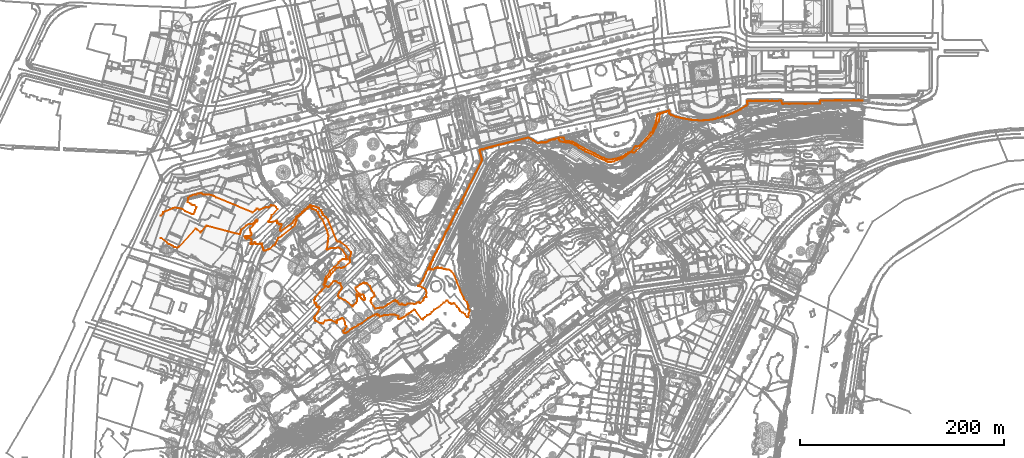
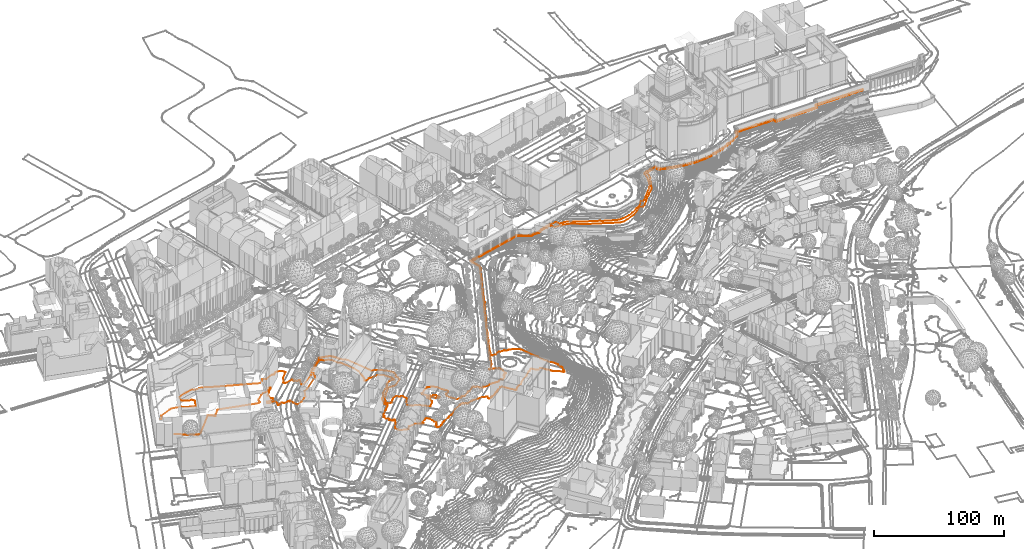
# Not in any storey, part 161 of 477: 2 geographic elements.
"""IFC4 model written with IfcOpenShell, lengths in metres."""

from ifc_helpers import new_model, entity, si_unit, frame, origin_with_axes, place, context, subcontext, project, spatial, element, save


model = new_model("IFC4")

# Units and contexts
model_context = context("Model", 3, precision=1e-05, world=origin_with_axes())
body_context = subcontext(model_context, "Body", "Model", "MODEL_VIEW")
ifc_project = project(units=[si_unit("AREAUNIT", "SQUARE_METRE"), si_unit("LENGTHUNIT", "METRE")], contexts=[model_context])

# Sites
site_1_placement = place(None, origin_with_axes())
site_1 = spatial("IfcSite", under=ifc_project, at=site_1_placement, Name="Topoexport Site")
site_2_placement = place(site_1_placement, origin_with_axes())
site_2 = spatial("IfcSite", under=site_1, at=site_2_placement, Name="TPX_CONTOUR_LINES")

# Geographic elements
geographic_element_1_placement = place(site_2_placement, frame((-0.8222679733, 247.6577477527, 535.0), z_axis=(0.0, 0.0, 1.0), x_axis=(1.0, 0.0, 0.0)))
element("IfcGeographicElement", 1, at=geographic_element_1_placement, inside=site_2, Name="Contour Line 535.0 m", PredefinedType="NOTDEFINED", context=body_context, shape_type="GeometricCurveSet", body=[
    entity("IfcGeometricCurveSet", [entity("IfcIndexedPolyCurve", entity("IfcCartesianPointList3D", [[689.0, 113.0112861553, 0.0], [684.5, 113.2232054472, 0.0], [682.5, 113.0069497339, 0.0], [679.5, 113.2831371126, 0.0], [676.5, 112.9909957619, 0.0], [662.5, 113.3224173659, 0.0], [657.5, 113.0410392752, 0.0], [647.5, 113.1673440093, 0.0], [646.4888474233, 112.5129682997, 0.0], [646.4300025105, 110.5129682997, 0.0], [645.5, 110.090278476, 0.0], [624.5, 110.0064386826, 0.0], [621.5, 110.2202464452, 0.0], [616.5, 109.9106621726, 0.0], [612.5, 110.13540971, 0.0], [610.5, 109.938324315, 0.0], [609.530613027, 110.5129682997, 0.0], [609.074192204, 112.5129682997, 0.0], [608.5, 112.9461238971, 0.0], [607.5, 113.0327052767, 0.0], [604.5, 112.6261456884, 0.0], [601.5, 112.5724643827, 0.0], [599.5, 112.8542835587, 0.0], [597.5, 112.5474271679, 0.0], [594.5, 112.9226776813, 0.0], [580.5, 112.6901587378, 0.0], [576.5, 112.8878785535, 0.0], [575.3509939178, 112.5129682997, 0.0], [575.156582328, 111.5129682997, 0.0], [575.5146015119, 109.5129682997, 0.0], [574.5, 108.2709891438, 0.0], [566.5, 103.3599050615, 0.0], [564.5, 102.2541050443, 0.0], [563.5, 102.1129409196, 0.0], [562.5, 101.2432690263, 0.0], [561.5, 101.0953213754, 0.0], [560.5, 100.4428786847, 0.0], [556.5, 99.0506712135, 0.0], [555.5, 98.418869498, 0.0], [553.5, 98.0709950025, 0.0], [552.5, 97.4730253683, 0.0], [550.5, 97.1183948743, 0.0], [548.5, 96.2588495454, 0.0], [546.5, 96.0701234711, 0.0], [543.5, 94.9527829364, 0.0], [537.5, 93.9780991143, 0.0], [530.291754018, 93.5129682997, 0.0], [527.5, 93.4214150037, 0.0], [526.5, 93.7781198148, 0.0], [519.5, 94.1629951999, 0.0], [508.5, 96.3017203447, 0.0], [507.5, 96.8825108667, 0.0], [505.5, 97.0364071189, 0.0], [502.5, 98.1863130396, 0.0], [501.5, 98.8801299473, 0.0], [500.5, 98.9951060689, 0.0], [499.7765457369, 99.5129682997, 0.0], [499.1739503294, 100.5129682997, 0.0], [498.9072390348, 102.5129682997, 0.0], [498.5, 102.9030619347, 0.0], [496.5, 102.7229866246, 0.0], [495.5, 102.1103224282, 0.0], [493.5, 101.7634862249, 0.0], [492.5, 100.9858348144, 0.0], [490.0512799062, 100.5129682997, 0.0], [489.5, 100.0703002, 0.0], [488.5, 100.0329479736, 0.0], [487.2213236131, 99.5129682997, 0.0], [486.7536295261, 98.5129682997, 0.0], [486.8007915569, 97.5129682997, 0.0], [485.3094752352, 90.5129682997, 0.0], [484.617260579, 88.5129682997, 0.0], [483.0735456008, 85.5129682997, 0.0], [482.5, 82.4621056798, 0.0], [480.7066145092, 81.5129682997, 0.0], [479.5, 79.5277939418, 0.0], [468.888888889, 68.5129682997, 0.0], [467.5, 67.7199390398, 0.0], [466.5, 68.3250984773, 0.0], [465.5, 68.0816714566, 0.0], [464.5, 67.0726644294, 0.0], [463.8097659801, 65.5129682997, 0.0], [460.5, 62.4744696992, 0.0], [458.5, 61.7611054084, 0.0], [456.5, 60.3382523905, 0.0], [452.5, 58.2216925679, 0.0], [448.5, 56.5607224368, 0.0], [442.5, 55.2909848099, 0.0], [440.5, 55.0570894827, 0.0], [438.5, 55.334133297, 0.0], [436.5, 55.8115464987, 0.0], [434.5, 56.8721564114, 0.0], [433.5, 57.0745964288, 0.0], [426.5, 60.4080882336, 0.0], [425.5, 61.2716425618, 0.0], [416.5, 65.4773194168, 0.0], [409.5, 69.3306665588, 0.0], [407.5, 70.7259605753, 0.0], [403.5, 72.7002039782, 0.0], [400.5, 73.3825605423, 0.0], [396.7853067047, 73.5129682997, 0.0], [395.6617080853, 75.5129682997, 0.0], [395.4479940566, 76.5129682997, 0.0], [394.5, 76.7260753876, 0.0], [390.5, 76.6855894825, 0.0], [389.5, 75.9234505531, 0.0], [387.5, 75.7761188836, 0.0], [385.5, 74.9852552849, 0.0], [383.5, 74.8044291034, 0.0], [381.5, 73.9819271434, 0.0], [380.5, 73.9006376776, 0.0], [379.5, 72.9382895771, 0.0], [378.5, 72.5032983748, 0.0], [375.5, 72.0016661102, 0.0], [373.5, 72.1146716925, 0.0], [370.5, 71.346337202, 0.0], [369.5, 71.3913681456, 0.0], [365.5, 74.0510210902, 0.0], [360.5, 76.7433366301, 0.0], [319.5, 66.5930714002, 0.0], [316.5, 65.3852895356, 0.0], [315.1690001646, 65.5129682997, 0.0], [312.6763834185, 64.5129682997, 0.0], [315.0169946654, 55.5129682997, 0.0], [314.6922356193, 53.5129682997, 0.0], [297.0241696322, 18.5129682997, 0.0], [294.6409162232, 13.5129682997, 0.0], [294.4283113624, 12.5129682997, 0.0], [290.5, 5.4709407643, 0.0], [289.7676762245, 3.5129682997, 0.0], [287.5, -0.5844544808, 0.0], [283.8492509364, -8.4870317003, 0.0], [279.462900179, -16.4870317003, 0.0], [276.9086111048, -22.4870317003, 0.0], [271.173315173, -33.4870317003, 0.0], [271.1798654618, -34.4870317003, 0.0], [269.1022958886, -37.4870317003, 0.0], [267.9898264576, -40.4870317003, 0.0], [267.2663899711, -41.4870317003, 0.0], [267.0973965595, -42.4870317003, 0.0], [264.5, -46.9361947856, 0.0], [262.4566205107, -51.4870317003, 0.0], [262.2661570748, -52.4870317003, 0.0], [260.5, -55.2028052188, 0.0], [260.2738789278, -56.4870317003, 0.0], [259.4943644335, -57.4870317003, 0.0], [258.9957020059, -59.4870317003, 0.0], [258.1840320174, -61.4870317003, 0.0], [257.5, -62.4147225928, 0.0], [257.3526284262, -63.4870317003, 0.0], [256.5, -64.1619576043, 0.0], [255.2109717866, -66.4870317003, 0.0], [253.5, -68.4155876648, 0.0], [252.4093686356, -68.4870317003, 0.0], [252.5, -68.8494095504, 0.0], [253.5, -68.7892295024, 0.0], [255.277777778, -69.4870317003, 0.0], [259.5, -71.6545896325, 0.0], [260.5934809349, -73.4870317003, 0.0], [260.7725321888, -75.4870317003, 0.0], [260.5291438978, -78.4870317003, 0.0], [260.7724458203, -79.4870317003, 0.0], [260.5, -79.8506680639, 0.0], [259.5, -79.8443286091, 0.0], [258.5, -80.747690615, 0.0], [257.7681055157, -81.4870317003, 0.0], [257.9235668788, -82.4870317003, 0.0], [257.5, -83.0466389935, 0.0], [254.5, -85.5876740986, 0.0], [253.5, -84.7174128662, 0.0], [251.5, -85.3118492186, 0.0], [250.5, -86.22916368, 0.0], [248.5, -86.4479692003, 0.0], [247.5, -86.1715310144, 0.0], [245.5, -86.2876210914, 0.0], [244.5, -85.8812015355, 0.0], [243.5, -86.2376901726, 0.0], [242.5, -86.1065169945, 0.0], [240.5, -87.3133272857, 0.0], [239.5, -87.353978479, 0.0], [237.5, -86.8645151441, 0.0], [236.5, -86.2800908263, 0.0], [235.5, -87.2725544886, 0.0], [234.5, -87.0003241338, 0.0], [233.3216355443, -85.4870317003, 0.0], [232.5, -83.8328911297, 0.0], [231.5, -83.8543044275, 0.0], [230.9721254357, -83.4870317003, 0.0], [230.5, -82.6128381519, 0.0], [228.5, -83.3790997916, 0.0], [224.5, -86.2395309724, 0.0], [223.1563137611, -86.4870317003, 0.0], [222.1232692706, -87.4870317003, 0.0], [218.5, -89.7486545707, 0.0], [217.5, -90.0153369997, 0.0], [216.5, -89.7598822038, 0.0], [215.5, -89.9111168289, 0.0], [214.5, -90.470775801, 0.0], [210.5, -90.8093346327, 0.0], [209.2204559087, -88.4870317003, 0.0], [206.861111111, -85.4870317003, 0.0], [206.2339003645, -83.4870317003, 0.0], [206.2977443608, -82.4870317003, 0.0], [207.1254666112, -80.4870317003, 0.0], [209.5, -79.1425340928, 0.0], [210.0429326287, -78.4870317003, 0.0], [209.702937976, -76.4870317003, 0.0], [209.1589506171, -75.4870317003, 0.0], [207.5, -73.6754062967, 0.0], [205.5, -69.126598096, 0.0], [202.447449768, -66.4870317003, 0.0], [201.5, -66.1507727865, 0.0], [200.5, -66.2447116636, 0.0], [199.5, -65.5348363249, 0.0], [198.5, -65.7710237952, 0.0], [196.5, -67.1314679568, 0.0], [195.5, -67.3774929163, 0.0], [193.5, -69.2567559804, 0.0], [191.3406144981, -70.4870317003, 0.0], [191.1686725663, -71.4870317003, 0.0], [192.8196506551, -74.4870317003, 0.0], [195.0317394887, -76.4870317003, 0.0], [194.8571428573, -77.4870317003, 0.0], [195.5, -77.6973530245, 0.0], [197.5, -77.1213959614, 0.0], [198.5, -77.3715324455, 0.0], [199.5, -78.2862018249, 0.0], [199.5965391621, -79.4870317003, 0.0], [200.6067907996, -80.4870317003, 0.0], [200.5, -81.8970423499, 0.0], [199.5, -82.4383868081, 0.0], [198.5, -82.3318106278, 0.0], [197.5, -81.774515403, 0.0], [196.9292452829, -80.4870317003, 0.0], [195.5, -78.8194087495, 0.0], [194.4391361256, -78.4870317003, 0.0], [194.2303370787, -77.4870317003, 0.0], [192.5, -76.700494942, 0.0], [192.0708071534, -77.4870317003, 0.0], [192.0960067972, -78.4870317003, 0.0], [192.8836352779, -80.4870317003, 0.0], [192.7656915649, -82.4870317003, 0.0], [193.0153333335, -83.4870317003, 0.0], [191.8103049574, -85.4870317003, 0.0], [189.3990037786, -87.4870317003, 0.0], [188.5, -88.9304608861, 0.0], [180.5, -82.4255770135, 0.0], [175.5, -80.4498695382, 0.0], [173.966292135, -78.4870317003, 0.0], [174.9550054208, -75.4870317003, 0.0], [177.5364797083, -71.4870317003, 0.0], [177.8597733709, -70.4870317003, 0.0], [176.4318936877, -66.4870317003, 0.0], [175.5, -65.7329994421, 0.0], [174.5, -66.1006680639, 0.0], [172.5, -64.2441646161, 0.0], [171.5, -63.8239966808, 0.0], [170.5, -63.997916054, 0.0], [169.5, -64.2540940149, 0.0], [167.8858289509, -66.4870317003, 0.0], [166.6465942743, -67.4870317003, 0.0], [165.1363636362, -69.4870317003, 0.0], [164.5, -69.7521056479, 0.0], [162.5, -69.1022814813, 0.0], [161.5, -69.228208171, 0.0], [161.0890939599, -67.4870317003, 0.0], [161.3615008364, -66.4870317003, 0.0], [162.1577249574, -65.4870317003, 0.0], [163.3270788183, -61.4870317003, 0.0], [165.6892282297, -59.4870317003, 0.0], [167.5, -56.8292034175, 0.0], [169.5, -54.8408882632, 0.0], [172.5, -51.1586479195, 0.0], [174.5, -50.8953517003, 0.0], [177.5, -51.1318261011, 0.0], [179.9154154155, -50.4870317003, 0.0], [185.9820185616, -45.4870317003, 0.0], [185.9554399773, -43.4870317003, 0.0], [185.2370386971, -41.4870317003, 0.0], [185.4009862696, -40.4870317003, 0.0], [186.4475394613, -39.4870317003, 0.0], [186.9264159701, -36.4870317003, 0.0], [186.7392324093, -35.4870317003, 0.0], [182.5, -30.0406379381, 0.0], [177.0377984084, -26.4870317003, 0.0], [176.0640608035, -25.4870317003, 0.0], [175.5, -25.1854351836, 0.0], [173.5, -25.3294814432, 0.0], [172.7647898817, -24.4870317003, 0.0], [164.2228525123, -3.4870317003, 0.0], [162.549434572, -1.4870317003, 0.0], [159.4530031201, 0.5129682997, 0.0], [159.4146572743, 1.5129682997, 0.0], [158.5382302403, 2.5129682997, 0.0], [158.5073452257, 3.5129682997, 0.0], [157.3106694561, 5.5129682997, 0.0], [155.3957688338, 7.5129682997, 0.0], [154.5, 7.9968033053, 0.0], [149.5, 9.6261115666, 0.0], [148.5, 8.9720280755, 0.0], [147.5, 9.9483295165, 0.0], [146.5, 10.4463410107, 0.0], [144.6164472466, 8.5129682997, 0.0], [144.3345552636, 7.5129682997, 0.0], [143.5, 7.1650644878, 0.0], [142.5, 6.2027820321, 0.0], [141.5, 5.8957982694, 0.0], [140.5, 4.5261856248, 0.0], [139.0738347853, 3.5129682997, 0.0], [137.1136449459, 1.5129682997, 0.0], [135.5, 0.1384839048, 0.0], [134.5, -0.1814486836, 0.0], [133.1907121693, -1.4870317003, 0.0], [130.9110665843, -4.4870317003, 0.0], [129.5, -6.9800649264, 0.0], [118.5, -14.7582992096, 0.0], [117.5, -14.6476534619, 0.0], [117.2329020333, -13.4870317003, 0.0], [118.9345922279, -8.4870317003, 0.0], [118.5, -8.085616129, 0.0], [117.5, -7.9461109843, 0.0], [116.5, -8.3814654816, 0.0], [115.6895652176, -7.4870317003, 0.0], [114.5, -6.9479535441, 0.0], [114.283018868, -6.4870317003, 0.0], [114.6253993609, -5.4870317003, 0.0], [114.6015873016, -4.4870317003, 0.0], [108.5, -6.3135623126, 0.0], [106.5, -6.0071177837, 0.0], [105.7749999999, -5.4870317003, 0.0], [108.0059347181, -2.4870317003, 0.0], [109.1173664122, 0.5129682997, 0.0], [114.716910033, 6.5129682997, 0.0], [113.3504135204, 8.5129682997, 0.0], [111.5, 10.0488829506, 0.0], [109.5, 9.9900272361, 0.0], [108.5, 10.4705252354, 0.0], [106.5, 8.5933963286, 0.0], [105.5, 8.2002851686, 0.0], [103.5, 8.6793812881, 0.0], [97.5, 5.9740854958, 0.0], [96.5, 5.8766688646, 0.0], [95.5, 6.9868383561, 0.0], [94.5, 7.0183243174, 0.0], [93.5, 5.8307488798, 0.0], [90.5, 3.3145008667, 0.0], [54.5, 18.0671036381, 0.0], [52.4287257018, 19.5129682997, 0.0], [47.5, 20.9436893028, 0.0], [46.5, 21.0245594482, 0.0], [44.5, 20.5720546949, 0.0], [42.5, 20.8840291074, 0.0], [41.5, 21.1723642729, 0.0], [40.5, 22.0604682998, 0.0], [39.5, 22.181493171, 0.0], [36.5, 21.7025576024, 0.0], [35.5, 20.9886129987, 0.0], [34.5, 20.8063424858, 0.0], [33.5, 20.9731302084, 0.0], [29.5, 19.4497343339, 0.0], [27.5, 18.0330284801, 0.0], [27.2221329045, 17.5129682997, 0.0], [26.6352810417, 13.5129682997, 0.0], [29.5, 11.8480222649, 0.0], [30.5, 10.8893383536, 0.0], [31.5, 10.5011654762, 0.0], [33.573924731, 10.5129682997, 0.0], [35.2894144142, 8.5129682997, 0.0], [35.0867625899, 7.5129682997, 0.0], [33.9570142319, 5.5129682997, 0.0], [33.5, 3.4001107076, 0.0], [32.5, 1.5352897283, 0.0], [30.5, 1.7923606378, 0.0], [24.3558740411, 4.5129682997, 0.0], [21.5, 6.7411060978, 0.0], [14.5, 7.9957934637, 0.0], [12.546875, 7.5129682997, 0.0], [2.7746365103, 3.5129682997, 0.0], [2.677121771, 2.5129682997, 0.0], [1.9111310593, 1.5129682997, 0.0], [0.5, 0.0, 0.0], [0.0, 0.0, 0.0]]))]),
])
geographic_element_2_placement = place(site_2_placement, frame((-0.8222679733, 225.9523151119, 534.0), z_axis=(0.0, 0.0, 1.0), x_axis=(1.0, 0.0, 0.0)))
element("IfcGeographicElement", 2, at=geographic_element_2_placement, inside=site_2, Name="Contour Line 534.0 m", PredefinedType="NOTDEFINED", context=body_context, shape_type="GeometricCurveSet", body=[
    entity("IfcGeometricCurveSet", [entity("IfcIndexedPolyCurve", entity("IfcCartesianPointList3D", [[689.0, 134.488948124, 0.0], [679.5, 134.7400675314, 0.0], [676.5, 134.4754351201, 0.0], [668.5, 134.7838034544, 0.0], [666.5, 134.5900608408, 0.0], [647.5, 134.6748974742, 0.0], [646.7922440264, 134.2184009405, 0.0], [646.5, 131.9275463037, 0.0], [645.5, 131.6087517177, 0.0], [631.5, 131.4418099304, 0.0], [621.5, 131.7601757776, 0.0], [616.5, 131.3691432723, 0.0], [612.5, 131.6509445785, 0.0], [610.5, 131.4576977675, 0.0], [609.5, 131.7335027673, 0.0], [608.811594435, 134.2184009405, 0.0], [607.5, 134.5700658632, 0.0], [604.5, 134.0523302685, 0.0], [601.5, 134.0001410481, 0.0], [599.5, 134.3380621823, 0.0], [597.5, 133.9541433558, 0.0], [596.5, 134.3108091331, 0.0], [594.5, 134.4191813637, 0.0], [580.5, 134.1193803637, 0.0], [576.5, 134.3794348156, 0.0], [575.5, 134.0785059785, 0.0], [575.3027531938, 133.2184009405, 0.0], [575.736935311, 131.2184009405, 0.0], [574.5, 129.8369169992, 0.0], [573.5, 129.4247411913, 0.0], [568.5, 126.0720220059, 0.0], [564.5, 123.8780588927, 0.0], [563.5, 123.7286547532, 0.0], [562.5, 122.8762868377, 0.0], [561.5, 122.7071065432, 0.0], [560.5, 122.0613811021, 0.0], [556.5, 120.6528572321, 0.0], [555.5, 120.0477864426, 0.0], [553.5, 119.6782898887, 0.0], [552.5, 119.0958598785, 0.0], [550.5, 118.7352021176, 0.0], [548.5, 117.8928918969, 0.0], [546.5, 117.6774800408, 0.0], [543.5, 116.5320945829, 0.0], [537.5, 115.5630558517, 0.0], [533.5, 115.2968949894, 0.0], [527.5, 115.0105137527, 0.0], [526.5, 115.3204496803, 0.0], [519.5, 115.7897252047, 0.0], [512.5, 117.0151773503, 0.0], [508.5, 117.9175107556, 0.0], [506.5, 118.6942990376, 0.0], [505.5, 118.6035034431, 0.0], [502.5, 119.780061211, 0.0], [501.5, 120.4493402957, 0.0], [500.5, 120.5893899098, 0.0], [499.6212707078, 121.2184009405, 0.0], [498.89294045, 122.2184009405, 0.0], [498.7402376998, 124.2184009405, 0.0], [498.5, 124.4485242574, 0.0], [496.5, 124.2578307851, 0.0], [495.5, 123.5778299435, 0.0], [493.5, 123.3072867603, 0.0], [492.5, 122.4664040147, 0.0], [490.8420209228, 122.2184009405, 0.0], [490.5, 121.7185776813, 0.0], [489.4606594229, 121.2184009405, 0.0], [489.3637724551, 118.2184009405, 0.0], [488.5679254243, 115.2184009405, 0.0], [488.6046724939, 114.2184009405, 0.0], [487.5, 113.2965827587, 0.0], [485.9438260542, 109.2184009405, 0.0], [483.8002648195, 105.2184009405, 0.0], [482.6694204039, 102.2184009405, 0.0], [477.5, 97.1337692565, 0.0], [475.991413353, 95.2184009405, 0.0], [473.5, 93.2622468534, 0.0], [470.5, 89.6392823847, 0.0], [466.5, 85.4939731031, 0.0], [464.5, 83.8536412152, 0.0], [463.5, 83.717396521, 0.0], [462.5, 84.4871039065, 0.0], [461.5, 84.3215413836, 0.0], [452.5, 77.9238681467, 0.0], [444.5, 75.0919943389, 0.0], [441.5, 74.347378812, 0.0], [438.5, 74.4900465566, 0.0], [430.5, 78.031721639, 0.0], [423.5, 81.6567760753, 0.0], [416.5, 84.8045180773, 0.0], [414.4158361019, 86.2184009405, 0.0], [410.385262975, 88.2184009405, 0.0], [406.5, 91.0880211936, 0.0], [403.5, 92.4939134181, 0.0], [399.5, 93.6182380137, 0.0], [397.5, 93.5580377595, 0.0], [393.5, 94.3045987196, 0.0], [392.2856650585, 94.2184009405, 0.0], [391.2514224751, 95.2184009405, 0.0], [390.4160419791, 97.2184009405, 0.0], [387.5, 97.3064882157, 0.0], [386.5, 96.5673826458, 0.0], [383.5, 96.3412187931, 0.0], [381.5, 95.4396353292, 0.0], [380.5, 95.4551477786, 0.0], [379.5, 94.3008028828, 0.0], [377.5, 93.4989804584, 0.0], [373.5, 93.6669298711, 0.0], [370.5, 92.86773992, 0.0], [369.5, 92.899621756, 0.0], [365.5, 95.5893519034, 0.0], [360.5, 98.2690038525, 0.0], [348.5, 95.4561013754, 0.0], [335.5, 91.9477227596, 0.0], [332.5, 91.4843427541, 0.0], [323.5, 88.8413511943, 0.0], [320.0506398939, 88.2184009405, 0.0], [316.5, 86.7694861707, 0.0], [313.3153102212, 86.2184009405, 0.0], [313.5, 84.5015655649, 0.0], [315.3093207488, 77.2184009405, 0.0], [315.0023565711, 75.2184009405, 0.0], [308.5, 62.607726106, 0.0], [305.0229273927, 55.2184009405, 0.0], [303.2826672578, 52.2184009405, 0.0], [298.0355285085, 41.2184009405, 0.0], [297.2941050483, 40.2184009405, 0.0], [296.1077186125, 37.2184009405, 0.0], [295.436174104, 36.2184009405, 0.0], [295.3059212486, 34.2184009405, 0.0], [294.5, 33.4720968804, 0.0], [292.5, 30.478246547, 0.0], [292.1080112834, 29.2184009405, 0.0], [290.5, 26.6110374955, 0.0], [290.1201036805, 25.2184009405, 0.0], [289.3200018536, 24.2184009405, 0.0], [286.1477287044, 17.2184009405, 0.0], [285.5, 16.4665878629, 0.0], [285.136598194, 15.2184009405, 0.0], [284.5, 14.3535251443, 0.0], [284.3441162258, 13.2184009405, 0.0], [283.4279914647, 12.2184009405, 0.0], [283.1415834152, 11.2184009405, 0.0], [282.4123845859, 10.2184009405, 0.0], [282.3223381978, 9.2184009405, 0.0], [281.5, 8.3031313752, 0.0], [279.5, 4.5785935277, 0.0], [275.8642932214, -3.7815990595, 0.0], [274.5, -5.6541837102, 0.0], [273.2101656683, -8.7815990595, 0.0], [272.4657043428, -9.7815990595, 0.0], [272.2410596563, -10.7815990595, 0.0], [271.425465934, -11.7815990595, 0.0], [271.4410358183, -12.7815990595, 0.0], [270.9490678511, -13.7815990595, 0.0], [269.4861309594, -15.7815990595, 0.0], [268.3303439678, -18.7815990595, 0.0], [267.4976847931, -19.7815990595, 0.0], [267.0991627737, -21.7815990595, 0.0], [266.5, -22.412371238, 0.0], [265.4153920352, -25.7815990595, 0.0], [264.4384796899, -27.7815990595, 0.0], [263.4595299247, -28.7815990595, 0.0], [263.5, -29.2210356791, 0.0], [264.1511780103, -29.7815990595, 0.0], [264.5, -31.1773587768, 0.0], [265.5, -30.5995782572, 0.0], [267.5, -31.0049000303, 0.0], [269.5, -29.6930697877, 0.0], [271.5, -29.7899711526, 0.0], [271.5, -28.75444251, 0.0], [273.5, -29.5732657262, 0.0], [275.5, -29.1825518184, 0.0], [276.5, -30.2523721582, 0.0], [278.5, -30.7236362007, 0.0], [279.5, -30.366145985, 0.0], [280.5, -30.9177662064, 0.0], [282.5, -31.1085641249, 0.0], [285.5, -32.9117889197, 0.0], [287.3459614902, -34.7815990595, 0.0], [290.3121408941, -41.7815990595, 0.0], [290.8746659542, -43.7815990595, 0.0], [293.5, -49.5985326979, 0.0], [294.2818002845, -52.7815990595, 0.0], [297.0150280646, -57.7815990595, 0.0], [297.692463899, -59.7815990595, 0.0], [300.4347563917, -62.7815990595, 0.0], [301.0946244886, -64.7815990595, 0.0], [301.8524657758, -65.7815990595, 0.0], [302.1201940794, -66.7815990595, 0.0], [301.620139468, -67.7815990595, 0.0], [301.8723474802, -69.7815990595, 0.0], [303.0964135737, -70.7815990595, 0.0], [302.9997696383, -71.7815990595, 0.0], [301.8997277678, -74.7815990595, 0.0], [302.2156726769, -75.7815990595, 0.0], [301.5, -77.383627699, 0.0], [300.5, -77.3811306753, 0.0], [298.5, -74.6838496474, 0.0], [296.5, -73.2721488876, 0.0], [295.5, -73.2560190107, 0.0], [293.9916556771, -71.7815990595, 0.0], [293.105777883, -70.7815990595, 0.0], [292.9712654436, -69.7815990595, 0.0], [290.9397920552, -67.7815990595, 0.0], [290.5, -66.784545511, 0.0], [288.5, -64.4926436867, 0.0], [287.4475218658, -63.7815990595, 0.0], [285.5, -65.0737865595, 0.0], [284.5, -64.0301304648, 0.0], [283.5, -63.7117860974, 0.0], [281.5, -61.3323748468, 0.0], [280.5, -61.3371425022, 0.0], [278.5, -63.1523723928, 0.0], [277.5, -63.5572692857, 0.0], [273.5, -67.1973866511, 0.0], [268.5, -70.4722230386, 0.0], [265.8952391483, -72.7815990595, 0.0], [264.5, -74.8283196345, 0.0], [261.6155492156, -75.7815990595, 0.0], [259.5, -77.4001234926, 0.0], [257.9973296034, -78.7815990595, 0.0], [257.5, -80.0124311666, 0.0], [256.4600352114, -79.7815990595, 0.0], [249.71538223, -70.7815990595, 0.0], [248.5, -70.3856007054, 0.0], [245.5, -72.4391116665, 0.0], [244.3518937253, -73.7815990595, 0.0], [243.5, -74.1093502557, 0.0], [242.5, -74.9823040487, 0.0], [241.5, -75.3004535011, 0.0], [239.5, -76.9552916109, 0.0], [237.5, -77.9680432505, 0.0], [236.6098764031, -78.7815990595, 0.0], [235.5, -78.8957387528, 0.0], [234.5, -79.784906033, 0.0], [233.5, -79.5073402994, 0.0], [232.9419689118, -78.7815990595, 0.0], [233.3715953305, -76.7815990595, 0.0], [232.5, -76.1884834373, 0.0], [230.5, -75.8180759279, 0.0], [229.5, -75.1804362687, 0.0], [221.5, -75.469921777, 0.0], [219.5, -75.7460904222, 0.0], [215.5, -76.9269865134, 0.0], [214.5, -75.8359036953, 0.0], [213.5, -75.9844126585, 0.0], [212.9401294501, -75.7815990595, 0.0], [212.8930248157, -74.7815990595, 0.0], [212.5, -74.6398820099, 0.0], [210.5, -75.3011119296, 0.0], [209.5, -76.1654453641, 0.0], [208.5, -76.3444760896, 0.0], [203.5, -78.6789942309, 0.0], [197.5, -83.5381822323, 0.0], [194.5, -84.9834474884, 0.0], [193.5, -85.8990525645, 0.0], [188.5, -88.1862610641, 0.0], [187.5, -89.2008523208, 0.0], [186.0948943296, -89.7815990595, 0.0], [183.5, -92.205105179, 0.0], [181.5, -93.0948476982, 0.0], [180.5, -93.2492088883, 0.0], [179.5, -92.8270536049, 0.0], [179.7846580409, -91.7815990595, 0.0], [179.2662337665, -90.7815990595, 0.0], [181.2343608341, -89.7815990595, 0.0], [181.0059171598, -88.7815990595, 0.0], [182.7051063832, -86.7815990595, 0.0], [181.2474178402, -84.7815990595, 0.0], [180.9786967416, -82.7815990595, 0.0], [179.7966162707, -79.7815990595, 0.0], [178.5, -78.3172623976, 0.0], [177.5, -78.437727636, 0.0], [176.5, -79.4842012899, 0.0], [173.0008183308, -80.7815990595, 0.0], [172.4239766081, -81.7815990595, 0.0], [173.0634517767, -82.7815990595, 0.0], [172.5, -83.2698688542, 0.0], [167.5, -80.5477933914, 0.0], [166.5, -80.3603771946, 0.0], [161.5, -81.0757167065, 0.0], [159.8901437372, -82.7815990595, 0.0], [159.5, -83.9443650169, 0.0], [156.5, -83.5077364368, 0.0], [152.5, -81.5227956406, 0.0], [151.7761268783, -80.7815990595, 0.0], [151.5055184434, -79.7815990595, 0.0], [150.8057586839, -78.7815990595, 0.0], [150.921251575, -77.7815990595, 0.0], [151.5, -76.4684677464, 0.0], [153.5, -74.3452748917, 0.0], [156.1755952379, -68.7815990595, 0.0], [155.9807436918, -67.7815990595, 0.0], [155.5, -67.5291583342, 0.0], [154.7181425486, -67.7815990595, 0.0], [154.5, -68.1274894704, 0.0], [153.3448275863, -67.7815990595, 0.0], [153.0756951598, -66.7815990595, 0.0], [152.3893093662, -65.7815990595, 0.0], [153.2788546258, -64.7815990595, 0.0], [152.5, -63.9315990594, 0.0], [151.3833107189, -63.7815990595, 0.0], [150.5784655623, -60.7815990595, 0.0], [151.744242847, -59.7815990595, 0.0], [151.7066365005, -58.7815990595, 0.0], [152.2255411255, -57.7815990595, 0.0], [155.9076668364, -53.7815990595, 0.0], [157.163707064, -52.7815990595, 0.0], [158.735729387, -50.7815990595, 0.0], [160.9559644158, -48.7815990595, 0.0], [160.9605930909, -46.7815990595, 0.0], [160.0186223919, -45.7815990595, 0.0], [160.9625320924, -43.7815990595, 0.0], [161.5, -39.640366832, 0.0], [162.484727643, -37.7815990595, 0.0], [163.7996588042, -36.7815990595, 0.0], [165.9546607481, -33.7815990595, 0.0], [166.5, -32.1824570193, 0.0], [170.1302070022, -28.7815990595, 0.0], [171.5, -28.0793677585, 0.0], [174.475682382, -24.7815990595, 0.0], [174.6441860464, -23.7815990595, 0.0], [176.5, -22.058359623, 0.0], [178.5, -20.9251914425, 0.0], [179.5, -20.6905818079, 0.0], [181.5, -20.579826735, 0.0], [182.5, -21.0790388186, 0.0], [182.9488636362, -20.7815990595, 0.0], [182.2344613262, -18.7815990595, 0.0], [182.5, -17.7139256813, 0.0], [178.5, -11.8925803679, 0.0], [176.5, -10.3933637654, 0.0], [174.5, -9.3416897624, 0.0], [171.5, -9.9674616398, 0.0], [167.5, -9.730305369, 0.0], [166.5, -10.3322152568, 0.0], [163.5, -11.3571700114, 0.0], [162.6577168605, -10.7815990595, 0.0], [163.2167689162, -9.7815990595, 0.0], [164.1019108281, -6.7815990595, 0.0], [163.9579375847, -4.7815990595, 0.0], [164.414866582, -2.7815990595, 0.0], [164.6865942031, 2.2184009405, 0.0], [163.4242241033, 7.2184009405, 0.0], [158.9119935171, 18.2184009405, 0.0], [158.1272845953, 19.2184009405, 0.0], [156.7271329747, 20.2184009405, 0.0], [154.3297931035, 25.2184009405, 0.0], [152.5, 27.1900027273, 0.0], [149.5, 28.2910640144, 0.0], [148.5, 28.2534989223, 0.0], [146.5, 30.2167483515, 0.0], [145.5, 30.4970378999, 0.0], [144.5, 28.8339519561, 0.0], [143.5, 28.555559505, 0.0], [142.5, 27.5889878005, 0.0], [141.6306732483, 27.2184009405, 0.0], [140.9805179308, 26.2184009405, 0.0], [137.5, 22.9572085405, 0.0], [136.5, 22.4840603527, 0.0], [135.5, 21.2458512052, 0.0], [133.9040206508, 20.2184009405, 0.0], [133.2567567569, 19.2184009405, 0.0], [133.4363440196, 17.2184009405, 0.0], [132.9078628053, 16.2184009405, 0.0], [132.217313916, 13.2184009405, 0.0], [131.5, 11.9909761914, 0.0], [119.5, 2.3567283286, 0.0], [115.5, -0.0577162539, 0.0], [112.5, -6.4451625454, 0.0], [110.5, -7.7345305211, 0.0], [106.5, -11.0275326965, 0.0], [101.5, -12.6352575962, 0.0], [100.905690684, -11.7815990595, 0.0], [100.69019019, -9.7815990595, 0.0], [100.0614814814, -8.7815990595, 0.0], [99.5, -5.6979227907, 0.0], [98.5, -6.0431536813, 0.0], [97.5, -5.4076098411, 0.0], [96.5, -5.9968094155, 0.0], [93.8736263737, -5.7815990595, 0.0], [93.5, -5.6788800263, 0.0], [93.2683307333, -4.7815990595, 0.0], [92.5, -4.2934920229, 0.0], [91.5, -5.2901653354, 0.0], [90.5108892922, -5.7815990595, 0.0], [89.5, -6.1876231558, 0.0], [88.5, -6.1241916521, 0.0], [88.482130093, -4.7815990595, 0.0], [89.3811881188, -3.7815990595, 0.0], [89.304, -1.7815990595, 0.0], [88.3292939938, -0.7815990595, 0.0], [86.5, -0.0329359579, 0.0], [85.5, 0.0021726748, 0.0], [84.5, -0.9742176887, 0.0], [83.5, -0.0306412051, 0.0], [82.8169877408, 0.2184009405, 0.0], [82.676119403, 1.2184009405, 0.0], [83.5, 1.9673833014, 0.0], [85.5, 1.6342974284, 0.0], [88.5, 2.1119319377, 0.0], [89.3404255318, 3.2184009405, 0.0], [89.5409738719, 4.2184009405, 0.0], [88.3381962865, 5.2184009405, 0.0], [87.9501424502, 9.2184009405, 0.0], [91.0435992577, 12.2184009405, 0.0], [91.3144329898, 13.2184009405, 0.0], [92.1877470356, 14.2184009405, 0.0], [94.7843822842, 16.2184009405, 0.0], [95.2566909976, 17.2184009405, 0.0], [94.5, 17.7843700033, 0.0], [93.5, 17.1940419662, 0.0], [89.5, 13.4821738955, 0.0], [86.5, 13.6458202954, 0.0], [84.0952380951, 12.2184009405, 0.0], [79.1543209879, 8.2184009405, 0.0], [79.0023255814, 7.2184009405, 0.0], [78.4352517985, 6.2184009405, 0.0], [78.3478260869, 4.2184009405, 0.0], [77.5, 3.8752924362, 0.0], [74.5, 4.1782060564, 0.0], [45.5, 11.9913558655, 0.0], [44.5, 11.3588503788, 0.0], [40.5, 6.7324458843, 0.0], [39.5, 5.1718492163, 0.0], [35.9084821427, 8.2184009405, 0.0], [34.5, 8.9887235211, 0.0], [18.5, -8.423637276, 0.0], [16.5, -9.6532866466, 0.0], [13.5, -8.7868025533, 0.0], [11.5, -7.3691535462, 0.0], [7.998546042, -5.7815990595, 0.0], [6.5, -4.3386243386, 0.0], [0.5, 0.0, 0.0], [0.0, 0.0, 0.0]]))]),
])

save(model, "model.ifc")
